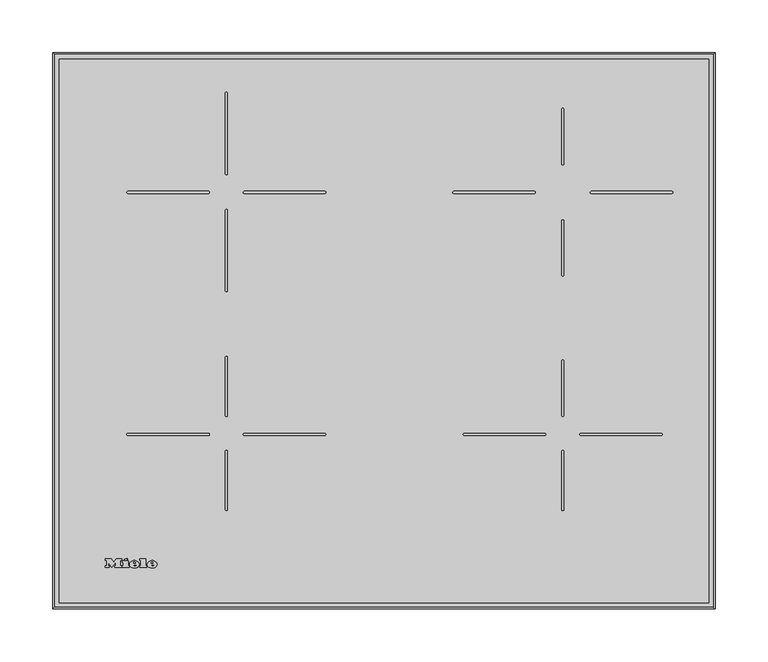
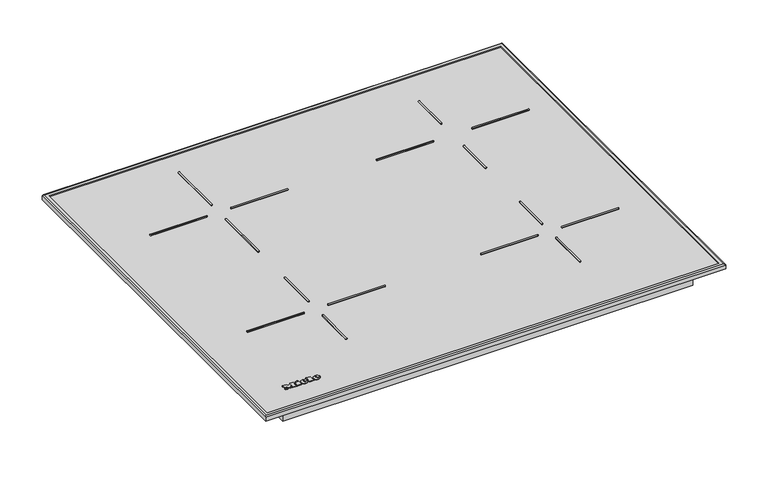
"""IFC4 building model written with IfcOpenShell, lengths in millimetres: proxy geometry, 12434410_TR_KM7361FR : 26736110_TR_12434410_KM7361FR."""

from ifc_helpers import new_model, si_unit, point, frame, frame_2d, origin, origin_with_axes, place, context, project, spatial, polyline, circle_curve, ellipse_curve, trimmed, segment, composite_curve, outline, extrude, source, transform, mapped, element, save
from ifc_brep_helpers import plane_surface, cylinder_surface, revolved_surface, extruded_surface, advanced_brep


def specialty_equipment_ff3cd103(model_context):
    return source(origin(), model_context, "Body", "SolidModel", [
        advanced_brep(
        [(-219.911984, 41.066, 5.0000007), (-219.911984, 41.874, 5.0000007), (-214.559984, 41.874, 5.0000007), (-223.871984, 41.874, 5.0000007), (-221.671984, 39.17, 5.0000007), (-214.695984, 41.066, 5.0000007), (-217.111984, 41.066, 5.0000007), (-219.015984, 40.17, 5.0000007), (-219.911984, 42.898, 5.0000007), (-219.911984, 43.77, 5.0000007), (-218.543984, 43.77, 5.0000007), (-218.543984, 42.898, 5.0000007), (-219.911984, 41.066, 4.0000007), (-219.015984, 40.17, 4.0000007), (-217.111984, 41.066, 4.0000007), (-214.695984, 41.066, 4.0000007), (-221.671984, 39.17, 4.0000007), (-223.871984, 41.874, 4.0000007), (-214.559984, 41.874, 4.0000007), (-219.911984, 41.874, 4.0000007), (-219.911984, 42.898, 4.0000007), (-218.543984, 42.898, 4.0000007), (-218.543984, 43.77, 4.0000007), (-219.911984, 43.77, 4.0000007)],
        [
            (0, 1),
            (1, 2),
            (2, 3, ellipse_curve(frame((-219.215984, 41.874, 5.0000007), z_axis=(0.0, 0.0, 1.0), x_axis=(-1.0, 0.0, 0.0)), 4.656, 3.848)),
            (3, 4, circle_curve(frame((-220.7759404, 42.146, 5.0000007), z_axis=(0.0, 0.0, 1.0), x_axis=(0.0, -1.0, 0.0)), 3.1079688)),
            (4, 5, circle_curve(frame((-219.3091904, 44.258, 5.0000007), z_axis=(0.0, 0.0, 1.0), x_axis=(0.0, -1.0, 0.0)), 5.6098607)),
            (5, 6),
            (6, 7, circle_curve(frame((-218.6249252, 41.81, 5.0000007), z_axis=(0.0, 0.0, -1.0), x_axis=(0.0, -1.0, 0.0)), 1.6859795)),
            (7, 0, circle_curve(frame((-219.015984, 41.066, 5.0000007), z_axis=(0.0, 0.0, -1.0), x_axis=(0.0, -1.0, 0.0)), 0.896)),
            (8, 9),
            (9, 10, circle_curve(frame((-219.227984, 43.77, 5.0000007), z_axis=(0.0, 0.0, -1.0), x_axis=(0.0, -1.0, 0.0)), 0.684)),
            (10, 11),
            (11, 8),
            (12, 13, circle_curve(frame((-219.015984, 41.066, 4.0000007), z_axis=(0.0, 0.0, 1.0), x_axis=(0.0, -1.0, 0.0)), 0.896)),
            (13, 14, circle_curve(frame((-218.6249252, 41.81, 4.0000007), z_axis=(0.0, 0.0, 1.0), x_axis=(0.0, -1.0, 0.0)), 1.6859795)),
            (14, 15),
            (15, 16, circle_curve(frame((-219.3091904, 44.258, 4.0000007), z_axis=(0.0, 0.0, -1.0), x_axis=(0.0, -1.0, 0.0)), 5.6098607)),
            (16, 17, circle_curve(frame((-220.7759404, 42.146, 4.0000007), z_axis=(0.0, 0.0, -1.0), x_axis=(0.0, -1.0, 0.0)), 3.1079688)),
            (17, 18, ellipse_curve(frame((-219.215984, 41.874, 4.0000007), z_axis=(0.0, 0.0, -1.0), x_axis=(-1.0, 0.0, 0.0)), 4.656, 3.848)),
            (18, 19),
            (19, 12),
            (20, 21),
            (21, 22),
            (22, 23, circle_curve(frame((-219.227984, 43.77, 4.0000007), z_axis=(0.0, 0.0, 1.0), x_axis=(0.0, -1.0, 0.0)), 0.684)),
            (23, 20),
            (0, 12),
            (19, 1),
            (18, 2),
            (5, 15),
            (14, 6),
            (17, 3),
            (13, 7),
            (16, 4),
            (8, 20),
            (23, 9),
            (22, 10),
            (21, 11),
        ],
        [
            plane_surface(frame((-219.911984, 41.874, 5.0000007), z_axis=(0.0, 0.0, 1.0), x_axis=(0.0, 1.0, 0.0))),
            plane_surface(frame((-219.911984, 41.874, 4.0000007), z_axis=(0.0, 0.0, -1.0), x_axis=(0.0, -1.0, 0.0))),
            plane_surface(frame((-219.911984, 41.066, 5.0000007), z_axis=(1.0, 0.0, 0.0), x_axis=(0.0, 0.0, -1.0))),
            plane_surface(frame((-219.911984, 41.874, 5.0000007), z_axis=(0.0, -1.0, 0.0), x_axis=(0.0, 0.0, -1.0))),
            plane_surface(frame((-214.695984, 41.066, 5.0000007), z_axis=(0.0, 1.0, 0.0), x_axis=(0.0, 0.0, -1.0))),
            extruded_surface(trimmed(ellipse_curve(frame((-219.215984, 41.874, 3.0000007), z_axis=(0.0, 0.0, 1.0), x_axis=(-1.0, 0.0, 0.0)), 4.656, 3.848), [point((-214.559984, 41.874, 3.0000007))], [point((-223.871984, 41.874, 3.0000007))], True, "CARTESIAN"), (0.0, 0.0, 1.0), 1.0),
            revolved_surface(polyline([(-218.6249252, 40.1240205, 4.0000007), (-218.6249252, 40.1240205, 5.0000007)]), (-218.6249252, 41.81, 4.0000007), (0.0, 0.0, -1.0)),
            revolved_surface(polyline([(-219.015984, 40.17, 4.0000007), (-219.015984, 40.17, 5.0000007)]), (-219.015984, 41.066, 4.0000007), (0.0, 0.0, -1.0)),
            cylinder_surface(frame((-220.7759404, 42.146, 4.0000007), z_axis=(0.0, 0.0, 1.0), x_axis=(0.0, -1.0, 0.0)), 3.1079688),
            cylinder_surface(frame((-219.3091904, 44.258, 4.0000007), z_axis=(0.0, 0.0, 1.0), x_axis=(0.0, -1.0, 0.0)), 5.6098607),
            plane_surface(frame((-219.911984, 42.898, 5.0000007), z_axis=(1.0, 0.0, 0.0), x_axis=(0.0, 0.0, -1.0))),
            revolved_surface(polyline([(-219.227984, 43.086000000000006, 4.0000007), (-219.227984, 43.086000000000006, 5.0000007)]), (-219.227984, 43.77, 4.0000007), (0.0, 0.0, -1.0)),
            plane_surface(frame((-218.543984, 43.77, 5.0000007), z_axis=(-1.0, 0.0, 0.0), x_axis=(0.0, 0.0, -1.0))),
            plane_surface(frame((-218.543984, 42.898, 5.0000007), z_axis=(0.0, 1.0, 0.0), x_axis=(0.0, 0.0, -1.0))),
        ],
        [
            (0, [[1, 2, 3, 4, 5, 6, 7, 8], [9, 10, 11, 12]]),
            (1, [[13, 14, 15, 16, 17, 18, 19, 20], [21, 22, 23, 24]]),
            (2, [[-1, 25, -20, 26]]),
            (3, [[-2, -26, -19, 27]]),
            (4, [[-6, 28, -15, 29]]),
            (5, [[-3, -27, -18, 30]]),
            (6, [[-7, -29, -14, 31]]),
            (7, [[-8, -31, -13, -25]]),
            (8, [[-4, -30, -17, 32]]),
            (9, [[-5, -32, -16, -28]]),
            (10, [[-9, 33, -24, 34]]),
            (11, [[-10, -34, -23, 35]]),
            (12, [[-11, -35, -22, 36]]),
            (13, [[-12, -36, -21, -33]]),
        ],
    ),
        advanced_brep(
        [(-236.607984, 41.066, 5.0000007), (-236.607984, 41.874, 5.0000007), (-231.255984, 41.874, 5.0000007), (-240.567984, 41.874, 5.0000007), (-238.367984, 39.17, 5.0000007), (-231.391984, 41.066, 5.0000007), (-233.807984, 41.066, 5.0000007), (-235.711984, 40.17, 5.0000007), (-236.607984, 42.898, 5.0000007), (-236.607984, 43.77, 5.0000007), (-235.239984, 43.77, 5.0000007), (-235.239984, 42.898, 5.0000007), (-236.607984, 41.066, 4.0000007), (-235.711984, 40.17, 4.0000007), (-233.807984, 41.066, 4.0000007), (-231.391984, 41.066, 4.0000007), (-238.367984, 39.17, 4.0000007), (-240.567984, 41.874, 4.0000007), (-231.255984, 41.874, 4.0000007), (-236.607984, 41.874, 4.0000007), (-236.607984, 42.898, 4.0000007), (-235.239984, 42.898, 4.0000007), (-235.239984, 43.77, 4.0000007), (-236.607984, 43.77, 4.0000007)],
        [
            (0, 1),
            (1, 2),
            (2, 3, ellipse_curve(frame((-235.911984, 41.874, 5.0000007), z_axis=(0.0, 0.0, 1.0), x_axis=(-1.0, 0.0, 0.0)), 4.656, 3.848)),
            (3, 4, circle_curve(frame((-237.4719404, 42.146, 5.0000007), z_axis=(0.0, 0.0, 1.0), x_axis=(0.0, -1.0, 0.0)), 3.1079688)),
            (4, 5, circle_curve(frame((-236.0051904, 44.258, 5.0000007), z_axis=(0.0, 0.0, 1.0), x_axis=(0.0, -1.0, 0.0)), 5.6098607)),
            (5, 6),
            (6, 7, circle_curve(frame((-235.3209252, 41.81, 5.0000007), z_axis=(0.0, 0.0, -1.0), x_axis=(0.0, -1.0, 0.0)), 1.6859795)),
            (7, 0, circle_curve(frame((-235.711984, 41.066, 5.0000007), z_axis=(0.0, 0.0, -1.0), x_axis=(0.0, -1.0, 0.0)), 0.896)),
            (8, 9),
            (9, 10, circle_curve(frame((-235.923984, 43.77, 5.0000007), z_axis=(0.0, 0.0, -1.0), x_axis=(0.0, -1.0, 0.0)), 0.684)),
            (10, 11),
            (11, 8),
            (12, 13, circle_curve(frame((-235.711984, 41.066, 4.0000007), z_axis=(0.0, 0.0, 1.0), x_axis=(0.0, -1.0, 0.0)), 0.896)),
            (13, 14, circle_curve(frame((-235.3209252, 41.81, 4.0000007), z_axis=(0.0, 0.0, 1.0), x_axis=(0.0, -1.0, 0.0)), 1.6859795)),
            (14, 15),
            (15, 16, circle_curve(frame((-236.0051904, 44.258, 4.0000007), z_axis=(0.0, 0.0, -1.0), x_axis=(0.0, -1.0, 0.0)), 5.6098607)),
            (16, 17, circle_curve(frame((-237.4719404, 42.146, 4.0000007), z_axis=(0.0, 0.0, -1.0), x_axis=(0.0, -1.0, 0.0)), 3.1079688)),
            (17, 18, ellipse_curve(frame((-235.911984, 41.874, 4.0000007), z_axis=(0.0, 0.0, -1.0), x_axis=(-1.0, 0.0, 0.0)), 4.656, 3.848)),
            (18, 19),
            (19, 12),
            (20, 21),
            (21, 22),
            (22, 23, circle_curve(frame((-235.923984, 43.77, 4.0000007), z_axis=(0.0, 0.0, 1.0), x_axis=(0.0, -1.0, 0.0)), 0.684)),
            (23, 20),
            (0, 12),
            (19, 1),
            (18, 2),
            (5, 15),
            (14, 6),
            (17, 3),
            (13, 7),
            (16, 4),
            (8, 20),
            (23, 9),
            (22, 10),
            (21, 11),
        ],
        [
            plane_surface(frame((-236.607984, 41.874, 5.0000007), z_axis=(0.0, 0.0, 1.0), x_axis=(0.0, 1.0, 0.0))),
            plane_surface(frame((-236.607984, 41.874, 4.0000007), z_axis=(0.0, 0.0, -1.0), x_axis=(0.0, -1.0, 0.0))),
            plane_surface(frame((-236.607984, 41.066, 5.0000007), z_axis=(1.0, 0.0, 0.0), x_axis=(0.0, 0.0, -1.0))),
            plane_surface(frame((-236.607984, 41.874, 5.0000007), z_axis=(0.0, -1.0, 0.0), x_axis=(0.0, 0.0, -1.0))),
            plane_surface(frame((-231.391984, 41.066, 5.0000007), z_axis=(0.0, 1.0, 0.0), x_axis=(0.0, 0.0, -1.0))),
            extruded_surface(trimmed(ellipse_curve(frame((-235.911984, 41.874, 3.0000007), z_axis=(0.0, 0.0, 1.0), x_axis=(-1.0, 0.0, 0.0)), 4.656, 3.848), [point((-231.255984, 41.874, 3.0000007))], [point((-240.567984, 41.874, 3.0000007))], True, "CARTESIAN"), (0.0, 0.0, 1.0), 1.0),
            revolved_surface(polyline([(-235.3209252, 40.1240205, 4.0000007), (-235.3209252, 40.1240205, 5.0000007)]), (-235.3209252, 41.81, 4.0000007), (0.0, 0.0, -1.0)),
            revolved_surface(polyline([(-235.711984, 40.17, 4.0000007), (-235.711984, 40.17, 5.0000007)]), (-235.711984, 41.066, 4.0000007), (0.0, 0.0, -1.0)),
            cylinder_surface(frame((-237.4719404, 42.146, 4.0000007), z_axis=(0.0, 0.0, 1.0), x_axis=(0.0, -1.0, 0.0)), 3.1079688),
            cylinder_surface(frame((-236.0051904, 44.258, 4.0000007), z_axis=(0.0, 0.0, 1.0), x_axis=(0.0, -1.0, 0.0)), 5.6098607),
            plane_surface(frame((-236.607984, 42.898, 5.0000007), z_axis=(1.0, 0.0, 0.0), x_axis=(0.0, 0.0, -1.0))),
            revolved_surface(polyline([(-235.923984, 43.086000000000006, 4.0000007), (-235.923984, 43.086000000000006, 5.0000007)]), (-235.923984, 43.77, 4.0000007), (0.0, 0.0, -1.0)),
            plane_surface(frame((-235.239984, 43.77, 5.0000007), z_axis=(-1.0, 0.0, 0.0), x_axis=(0.0, 0.0, -1.0))),
            plane_surface(frame((-235.239984, 42.898, 5.0000007), z_axis=(0.0, 1.0, 0.0), x_axis=(0.0, 0.0, -1.0))),
        ],
        [
            (0, [[1, 2, 3, 4, 5, 6, 7, 8], [9, 10, 11, 12]]),
            (1, [[13, 14, 15, 16, 17, 18, 19, 20], [21, 22, 23, 24]]),
            (2, [[-1, 25, -20, 26]]),
            (3, [[-2, -26, -19, 27]]),
            (4, [[-6, 28, -15, 29]]),
            (5, [[-3, -27, -18, 30]]),
            (6, [[-7, -29, -14, 31]]),
            (7, [[-8, -31, -13, -25]]),
            (8, [[-4, -30, -17, 32]]),
            (9, [[-5, -32, -16, -28]]),
            (10, [[-9, 33, -24, 34]]),
            (11, [[-10, -34, -23, 35]]),
            (12, [[-11, -35, -22, 36]]),
            (13, [[-12, -36, -21, -33]]),
        ],
    ),
        extrude(outline(polyline([(-245.351984, 46.698), (-242.631984, 47.962), (-242.031984, 46.666), (-244.743984, 45.402), (-245.351984, 46.698)])), frame((0.0, 0.0, 4.0000007), z_axis=(0.0, 0.0, 1.0), x_axis=(1.0, 0.0, 0.0)), (0.0, 0.0, 1.0), 1.0),
        extrude(outline(polyline([(-247.327984, 45.226), (-241.943984, 45.226), (-241.943984, 40.514), (-241.015984, 40.514), (-241.015984, 39.17), (-247.327984, 39.17), (-247.327984, 40.514), (-246.375984, 40.514), (-246.375984, 43.794), (-247.327984, 43.794), (-247.327984, 45.226)])), frame((0.0, 0.0, 4.0000007), z_axis=(0.0, 0.0, 1.0), x_axis=(1.0, 0.0, 0.0)), (0.0, 0.0, 1.0), 1.0),
        extrude(outline(polyline([(-230.807984, 45.866), (-230.807984, 47.17), (-225.303984, 47.17), (-225.303984, 40.514), (-224.319984, 40.514), (-224.319984, 39.17), (-230.807984, 39.17), (-230.807984, 40.514), (-229.847984, 40.514), (-229.847984, 45.866), (-230.807984, 45.866)])), frame((0.0, 0.0, 4.0000007), z_axis=(0.0, 0.0, 1.0), x_axis=(1.0, 0.0, 0.0)), (0.0, 0.0, 1.0), 1.0),
        extrude(outline(polyline([(-263.271984, 45.866), (-263.271984, 47.17), (-257.695984, 47.17), (-255.351984, 44.17), (-253.015984, 47.17), (-248.143984, 47.17), (-248.143984, 45.866), (-249.159984, 45.866), (-249.159984, 40.514), (-248.143984, 40.514), (-248.143984, 39.17), (-254.527984, 39.17), (-254.527984, 40.514), (-253.543984, 40.514), (-253.543984, 43.9852223), (-257.135984, 39.17), (-260.711984, 43.9171247), (-260.711984, 40.514), (-259.751984, 40.514), (-259.751984, 39.17), (-263.271984, 39.17), (-263.271984, 40.514), (-262.303984, 40.514), (-262.303984, 45.866), (-263.271984, 45.866)])), frame((0.0, 0.0, 4.0000007), z_axis=(0.0, 0.0, 1.0), x_axis=(1.0, 0.0, 0.0)), (0.0, 0.0, 1.0), 1.0),
        extrude(outline(composite_curve([segment(trimmed(circle_curve(frame_2d((-56.0, 394.0)), 1.0), [point((-56.0, 395.0))], [point((-56.0, 393.0))], False, "CARTESIAN"), True, "CONTINUOUS"), segment(polyline([(-56.0, 393.0), (-132.0, 393.0)]), True, "CONTINUOUS"), segment(trimmed(circle_curve(frame_2d((-132.0, 394.0)), 1.0), [point((-132.0, 393.0))], [point((-132.0, 395.0))], False, "CARTESIAN"), True, "CONTINUOUS"), segment(polyline([(-132.0, 395.0), (-56.0, 395.0)]), True, "CONTINUOUS")], self_intersect=False)), frame((0.0, 0.0, 4.0000007), z_axis=(0.0, 0.0, 1.0), x_axis=(1.0, 0.0, 0.0)), (0.0, 0.0, 1.0), 1.0),
        extrude(outline(composite_curve([segment(polyline([(-242.0, 395.0), (-166.0, 395.0)]), True, "CONTINUOUS"), segment(trimmed(circle_curve(frame_2d((-166.0, 394.0)), 1.0), [point((-166.0, 395.0))], [point((-166.0, 393.0))], False, "CARTESIAN"), True, "CONTINUOUS"), segment(polyline([(-166.0, 393.0), (-242.0, 393.0)]), True, "CONTINUOUS"), segment(trimmed(circle_curve(frame_2d((-242.0, 394.0)), 1.0), [point((-242.0, 393.0))], [point((-242.0, 395.0))], False, "CARTESIAN"), True, "CONTINUOUS")], self_intersect=False)), frame((0.0, 0.0, 4.0000007), z_axis=(0.0, 0.0, 1.0), x_axis=(1.0, 0.0, 0.0)), (0.0, 0.0, 1.0), 1.0),
        extrude(outline(composite_curve([segment(trimmed(circle_curve(frame_2d((-149.0, 487.75)), 1.0), [point((-150.0, 487.75))], [point((-148.0, 487.75))], False, "CARTESIAN"), True, "CONTINUOUS"), segment(polyline([(-148.0, 487.75), (-148.0, 411.75)]), True, "CONTINUOUS"), segment(trimmed(circle_curve(frame_2d((-149.0, 411.75)), 1.0), [point((-148.0, 411.75))], [point((-150.0, 411.75))], False, "CARTESIAN"), True, "CONTINUOUS"), segment(polyline([(-150.0, 411.75), (-150.0, 487.75)]), True, "CONTINUOUS")], self_intersect=False)), frame((0.0, 0.0, 4.0000007), z_axis=(0.0, 0.0, 1.0), x_axis=(1.0, 0.0, 0.0)), (0.0, 0.0, 1.0), 1.0),
        extrude(outline(composite_curve([segment(polyline([(-150.0, 301.0), (-150.0, 377.0)]), True, "CONTINUOUS"), segment(trimmed(circle_curve(frame_2d((-149.0, 377.0)), 1.0), [point((-150.0, 377.0))], [point((-148.0, 377.0))], False, "CARTESIAN"), True, "CONTINUOUS"), segment(polyline([(-148.0, 377.0), (-148.0, 301.0)]), True, "CONTINUOUS"), segment(trimmed(circle_curve(frame_2d((-149.0, 301.0)), 1.0), [point((-148.0, 301.0))], [point((-150.0, 301.0))], False, "CARTESIAN"), True, "CONTINUOUS")], self_intersect=False)), frame((0.0, 0.0, 4.0000007), z_axis=(0.0, 0.0, 1.0), x_axis=(1.0, 0.0, 0.0)), (0.0, 0.0, 1.0), 1.0),
        extrude(outline(composite_curve([segment(polyline([(66.0, 395.0), (142.0, 395.0)]), True, "CONTINUOUS"), segment(trimmed(circle_curve(frame_2d((142.0, 394.0)), 1.0), [point((142.0, 395.0))], [point((142.0, 393.0))], False, "CARTESIAN"), True, "CONTINUOUS"), segment(polyline([(142.0, 393.0), (66.0, 393.0)]), True, "CONTINUOUS"), segment(trimmed(circle_curve(frame_2d((66.0, 394.0)), 1.0), [point((66.0, 393.0))], [point((66.0, 395.0))], False, "CARTESIAN"), True, "CONTINUOUS")], self_intersect=False)), frame((0.0, 0.0, 4.0000007), z_axis=(0.0, 0.0, 1.0), x_axis=(1.0, 0.0, 0.0)), (0.0, 0.0, 1.0), 1.0),
        extrude(outline(composite_curve([segment(trimmed(circle_curve(frame_2d((272.0, 394.0)), 1.0), [point((272.0, 395.0))], [point((272.0, 393.0))], False, "CARTESIAN"), True, "CONTINUOUS"), segment(polyline([(272.0, 393.0), (196.0, 393.0)]), True, "CONTINUOUS"), segment(trimmed(circle_curve(frame_2d((196.0, 394.0)), 1.0), [point((196.0, 393.0))], [point((196.0, 395.0))], False, "CARTESIAN"), True, "CONTINUOUS"), segment(polyline([(196.0, 395.0), (272.0, 395.0)]), True, "CONTINUOUS")], self_intersect=False)), frame((0.0, 0.0, 4.0000007), z_axis=(0.0, 0.0, 1.0), x_axis=(1.0, 0.0, 0.0)), (0.0, 0.0, 1.0), 1.0),
        extrude(outline(composite_curve([segment(polyline([(170.0, 472.75), (170.0, 421.0)]), True, "CONTINUOUS"), segment(trimmed(circle_curve(frame_2d((169.0, 421.0)), 1.0), [point((170.0, 421.0))], [point((168.0, 421.0))], False, "CARTESIAN"), True, "CONTINUOUS"), segment(polyline([(168.0, 421.0), (168.0, 472.75)]), True, "CONTINUOUS"), segment(trimmed(circle_curve(frame_2d((169.0, 472.75)), 1.0), [point((168.0, 472.75))], [point((170.0, 472.75))], False, "CARTESIAN"), True, "CONTINUOUS")], self_intersect=False)), frame((0.0, 0.0, 4.0000007), z_axis=(0.0, 0.0, 1.0), x_axis=(1.0, 0.0, 0.0)), (0.0, 0.0, 1.0), 1.0),
        extrude(outline(composite_curve([segment(trimmed(circle_curve(frame_2d((169.0, 316.0)), 1.0), [point((170.0, 316.0))], [point((168.0, 316.0))], False, "CARTESIAN"), True, "CONTINUOUS"), segment(polyline([(168.0, 316.0), (168.0, 367.0)]), True, "CONTINUOUS"), segment(trimmed(circle_curve(frame_2d((169.0, 367.0)), 1.0), [point((168.0, 367.0))], [point((170.0, 367.0))], False, "CARTESIAN"), True, "CONTINUOUS"), segment(polyline([(170.0, 367.0), (170.0, 316.0)]), True, "CONTINUOUS")], self_intersect=False)), frame((0.0, 0.0, 4.0000007), z_axis=(0.0, 0.0, 1.0), x_axis=(1.0, 0.0, 0.0)), (0.0, 0.0, 1.0), 1.0),
        extrude(outline(composite_curve([segment(polyline([(-56.0, 164.0), (-132.0, 164.0)]), True, "CONTINUOUS"), segment(trimmed(circle_curve(frame_2d((-132.0, 165.0)), 1.0), [point((-132.0, 164.0))], [point((-132.0, 166.0))], False, "CARTESIAN"), True, "CONTINUOUS"), segment(polyline([(-132.0, 166.0), (-56.0, 166.0)]), True, "CONTINUOUS"), segment(trimmed(circle_curve(frame_2d((-56.0, 165.0)), 1.0), [point((-56.0, 166.0))], [point((-56.0, 164.0))], False, "CARTESIAN"), True, "CONTINUOUS")], self_intersect=False)), frame((0.0, 0.0, 4.0000007), z_axis=(0.0, 0.0, 1.0), x_axis=(1.0, 0.0, 0.0)), (0.0, 0.0, 1.0), 1.0),
        extrude(outline(composite_curve([segment(trimmed(circle_curve(frame_2d((-242.0, 165.0)), 1.0), [point((-242.0, 164.0))], [point((-242.0, 166.0))], False, "CARTESIAN"), True, "CONTINUOUS"), segment(polyline([(-242.0, 166.0), (-166.0, 166.0)]), True, "CONTINUOUS"), segment(trimmed(circle_curve(frame_2d((-166.0, 165.0)), 1.0), [point((-166.0, 166.0))], [point((-166.0, 164.0))], False, "CARTESIAN"), True, "CONTINUOUS"), segment(polyline([(-166.0, 164.0), (-242.0, 164.0)]), True, "CONTINUOUS")], self_intersect=False)), frame((0.0, 0.0, 4.0000007), z_axis=(0.0, 0.0, 1.0), x_axis=(1.0, 0.0, 0.0)), (0.0, 0.0, 1.0), 1.0),
        extrude(outline(composite_curve([segment(polyline([(-150.0, 94.0), (-150.0, 149.0)]), True, "CONTINUOUS"), segment(trimmed(circle_curve(frame_2d((-149.0, 149.0)), 1.0), [point((-150.0, 149.0))], [point((-148.0, 149.0))], False, "CARTESIAN"), True, "CONTINUOUS"), segment(polyline([(-148.0, 149.0), (-148.0, 94.0)]), True, "CONTINUOUS"), segment(trimmed(circle_curve(frame_2d((-149.0, 94.0)), 1.0), [point((-148.0, 94.0))], [point((-150.0, 94.0))], False, "CARTESIAN"), True, "CONTINUOUS")], self_intersect=False)), frame((0.0, 0.0, 4.0000007), z_axis=(0.0, 0.0, 1.0), x_axis=(1.0, 0.0, 0.0)), (0.0, 0.0, 1.0), 1.0),
        extrude(outline(composite_curve([segment(trimmed(circle_curve(frame_2d((-149.0, 238.0)), 1.0), [point((-150.0, 238.0))], [point((-148.0, 238.0))], False, "CARTESIAN"), True, "CONTINUOUS"), segment(polyline([(-148.0, 238.0), (-148.0, 183.0)]), True, "CONTINUOUS"), segment(trimmed(circle_curve(frame_2d((-149.0, 183.0)), 1.0), [point((-148.0, 183.0))], [point((-150.0, 183.0))], False, "CARTESIAN"), True, "CONTINUOUS"), segment(polyline([(-150.0, 183.0), (-150.0, 238.0)]), True, "CONTINUOUS")], self_intersect=False)), frame((0.0, 0.0, 4.0000007), z_axis=(0.0, 0.0, 1.0), x_axis=(1.0, 0.0, 0.0)), (0.0, 0.0, 1.0), 1.0),
        extrude(outline(composite_curve([segment(trimmed(circle_curve(frame_2d((76.0, 165.0)), 1.0), [point((76.0, 164.0))], [point((76.0, 166.0))], False, "CARTESIAN"), True, "CONTINUOUS"), segment(polyline([(76.0, 166.0), (152.0, 166.0)]), True, "CONTINUOUS"), segment(trimmed(circle_curve(frame_2d((152.0, 165.0)), 1.0), [point((152.0, 166.0))], [point((152.0, 164.0))], False, "CARTESIAN"), True, "CONTINUOUS"), segment(polyline([(152.0, 164.0), (76.0, 164.0)]), True, "CONTINUOUS")], self_intersect=False)), frame((0.0, 0.0, 4.0000007), z_axis=(0.0, 0.0, 1.0), x_axis=(1.0, 0.0, 0.0)), (0.0, 0.0, 1.0), 1.0),
        extrude(outline(composite_curve([segment(polyline([(262.0, 164.0), (186.0, 164.0)]), True, "CONTINUOUS"), segment(trimmed(circle_curve(frame_2d((186.0, 165.0)), 1.0), [point((186.0, 164.0))], [point((186.0, 166.0))], False, "CARTESIAN"), True, "CONTINUOUS"), segment(polyline([(186.0, 166.0), (262.0, 166.0)]), True, "CONTINUOUS"), segment(trimmed(circle_curve(frame_2d((262.0, 165.0)), 1.0), [point((262.0, 166.0))], [point((262.0, 164.0))], False, "CARTESIAN"), True, "CONTINUOUS")], self_intersect=False)), frame((0.0, 0.0, 4.0000007), z_axis=(0.0, 0.0, 1.0), x_axis=(1.0, 0.0, 0.0)), (0.0, 0.0, 1.0), 1.0),
        extrude(outline(composite_curve([segment(trimmed(circle_curve(frame_2d((169.0, 94.0)), 1.0), [point((170.0, 94.0))], [point((168.0, 94.0))], False, "CARTESIAN"), True, "CONTINUOUS"), segment(polyline([(168.0, 94.0), (168.0, 149.0)]), True, "CONTINUOUS"), segment(trimmed(circle_curve(frame_2d((169.0, 149.0)), 1.0), [point((168.0, 149.0))], [point((170.0, 149.0))], False, "CARTESIAN"), True, "CONTINUOUS"), segment(polyline([(170.0, 149.0), (170.0, 94.0)]), True, "CONTINUOUS")], self_intersect=False)), frame((0.0, 0.0, 4.0000007), z_axis=(0.0, 0.0, 1.0), x_axis=(1.0, 0.0, 0.0)), (0.0, 0.0, 1.0), 1.0),
        extrude(outline(composite_curve([segment(polyline([(170.0, 234.3524804), (170.0, 183.0)]), True, "CONTINUOUS"), segment(trimmed(circle_curve(frame_2d((169.0, 183.0)), 1.0), [point((170.0, 183.0))], [point((168.0, 183.0))], False, "CARTESIAN"), True, "CONTINUOUS"), segment(polyline([(168.0, 183.0), (168.0, 234.3524804)]), True, "CONTINUOUS"), segment(trimmed(circle_curve(frame_2d((169.0, 234.3524804)), 1.0), [point((168.0, 234.3524804))], [point((170.0, 234.3524804))], False, "CARTESIAN"), True, "CONTINUOUS")], self_intersect=False)), frame((0.0, 0.0, 4.0000007), z_axis=(0.0, 0.0, 1.0), x_axis=(1.0, 0.0, 0.0)), (0.0, 0.0, 1.0), 1.0),
        advanced_brep(
        [(313.0, 526.0, 0.0), (313.0, 526.0, 5.5271728), (313.0, 0.0, 5.5271728), (313.0, 0.0, 0.0), (311.5271728, 524.5271728, 5.8817013), (311.5271728, 524.5271728, 0.0), (311.5271728, 1.4728272, 0.0), (311.5271728, 1.4728272, 5.8817013), (307.2139587, 520.2139587, 7.0), (307.2139587, 520.2139587, 5.8817013), (307.2139587, 5.7860413, 5.8817013), (307.2139587, 5.7860413, 7.0), (311.5271728, 524.5271728, 7.0), (311.5271728, 1.4728272, 7.0), (-313.0, 0.0, 5.5271728), (-313.0, 0.0, 0.0), (-311.5271728, 1.4728272, 0.0), (-311.5271728, 1.4728272, 5.8817013), (-307.2139587, 5.7860413, 5.8817013), (-307.2139587, 5.7860413, 7.0), (-311.5271728, 1.4728272, 7.0), (-313.0, 526.0, 5.5271728), (-313.0, 526.0, 0.0), (-311.5271728, 524.5271728, 0.0), (-311.5271728, 524.5271728, 5.8817013), (-307.2139587, 520.2139587, 5.8817013), (-307.2139587, 520.2139587, 7.0), (-311.5271728, 524.5271728, 7.0)],
        [
            (0, 1),
            (1, 2),
            (2, 3),
            (3, 0),
            (4, 5),
            (5, 6),
            (6, 7),
            (7, 4),
            (8, 9),
            (9, 10),
            (10, 11),
            (11, 8),
            (1, 12, ellipse_curve(frame((311.5271728, 524.5271728, 5.5271728), z_axis=(0.7071067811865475, -0.7071067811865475, 0.0), x_axis=(0.7071067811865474, 0.7071067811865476, 0.0)), 2.0828921, 1.4728272)),
            (12, 13),
            (13, 2, ellipse_curve(frame((311.5271728, 1.4728272, 5.5271728), z_axis=(0.7071067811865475, 0.7071067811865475, 0.0), x_axis=(-0.7071067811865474, 0.7071067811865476, 0.0)), 2.0828921, 1.4728272)),
            (2, 14),
            (14, 15),
            (15, 3),
            (6, 16),
            (16, 17),
            (17, 7),
            (10, 18),
            (18, 19),
            (19, 11),
            (13, 20),
            (20, 14, ellipse_curve(frame((-311.5271728, 1.4728272, 5.5271728), z_axis=(0.7071067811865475, -0.7071067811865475, 0.0), x_axis=(0.7071067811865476, 0.7071067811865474, 0.0)), 2.0828921, 1.4728272)),
            (14, 21),
            (21, 22),
            (22, 15),
            (16, 23),
            (23, 24),
            (24, 17),
            (18, 25),
            (25, 26),
            (26, 19),
            (20, 27),
            (27, 21, ellipse_curve(frame((-311.5271728, 524.5271728, 5.5271728), z_axis=(-0.7071067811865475, -0.7071067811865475, 0.0), x_axis=(0.7071067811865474, -0.7071067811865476, 0.0)), 2.0828921, 1.4728272)),
            (21, 1),
            (0, 22),
            (5, 23),
            (4, 24),
            (9, 25),
            (8, 26),
            (12, 27),
        ],
        [
            plane_surface(frame((313.0, 526.0, 5.5271728), z_axis=(1.0, 0.0, 0.0), x_axis=(0.0, -1.0, 0.0))),
            plane_surface(frame((311.5271728, 524.5271728, 0.0), z_axis=(-1.0, 0.0, 0.0), x_axis=(0.0, -1.0, 0.0))),
            plane_surface(frame((307.2139587, 520.2139587, 5.8817013), z_axis=(-1.0, 0.0, 0.0), x_axis=(0.0, -1.0, 0.0))),
            cylinder_surface(frame((311.5271728, 526.0, 5.5271728), z_axis=(0.0, 1.0, 0.0), x_axis=(1.0, 0.0, 0.0)), 1.4728272),
            plane_surface(frame((313.0, 0.0, 5.5271728), z_axis=(0.0, -1.0, 0.0), x_axis=(-1.0, 0.0, 0.0))),
            plane_surface(frame((311.5271728, 1.4728272, 0.0), z_axis=(0.0, 1.0, 0.0), x_axis=(-1.0, 0.0, 0.0))),
            plane_surface(frame((307.2139587, 5.7860413, 5.8817013), z_axis=(0.0, 1.0, 0.0), x_axis=(-1.0, 0.0, 0.0))),
            cylinder_surface(frame((313.0, 1.4728272, 5.5271728), z_axis=(1.0, 0.0, 0.0), x_axis=(0.0, -1.0, 0.0)), 1.4728272),
            plane_surface(frame((-313.0, 0.0, 5.5271728), z_axis=(-1.0, 0.0, 0.0), x_axis=(0.0, 1.0, 0.0))),
            plane_surface(frame((-311.5271728, 1.4728272, 0.0), z_axis=(1.0, 0.0, 0.0), x_axis=(0.0, 1.0, 0.0))),
            plane_surface(frame((-307.2139587, 5.7860413, 5.8817013), z_axis=(1.0, 0.0, 0.0), x_axis=(0.0, 1.0, 0.0))),
            cylinder_surface(frame((-311.5271728, 0.0, 5.5271728), z_axis=(0.0, -1.0, 0.0), x_axis=(-1.0, 0.0, 0.0)), 1.4728272),
            plane_surface(frame((-313.0, 526.0, 5.5271728), z_axis=(0.0, 1.0, 0.0), x_axis=(1.0, 0.0, 0.0))),
            plane_surface(frame((-313.0, 526.0, 0.0), z_axis=(0.0, 0.0, -1.0), x_axis=(1.0, 0.0, 0.0))),
            plane_surface(frame((-311.5271728, 524.5271728, 0.0), z_axis=(0.0, -1.0, 0.0), x_axis=(1.0, 0.0, 0.0))),
            plane_surface(frame((-311.5271728, 524.5271728, 5.8817013), z_axis=(0.0, 0.0, -1.0), x_axis=(1.0, 0.0, 0.0))),
            plane_surface(frame((-307.2139587, 520.2139587, 5.8817013), z_axis=(0.0, -1.0, 0.0), x_axis=(1.0, 0.0, 0.0))),
            plane_surface(frame((-307.2139587, 520.2139587, 7.0), z_axis=(0.0, 0.0, 1.0), x_axis=(1.0, 0.0, 0.0))),
            cylinder_surface(frame((-313.0, 524.5271728, 5.5271728), z_axis=(-1.0, 0.0, 0.0), x_axis=(0.0, 1.0, 0.0)), 1.4728272),
        ],
        [
            (0, [[1, 2, 3, 4]]),
            (1, [[5, 6, 7, 8]]),
            (2, [[9, 10, 11, 12]]),
            (3, [[13, 14, 15, -2]]),
            (4, [[-3, 16, 17, 18]]),
            (5, [[-7, 19, 20, 21]]),
            (6, [[-11, 22, 23, 24]]),
            (7, [[-15, 25, 26, -16]]),
            (8, [[-17, 27, 28, 29]]),
            (9, [[-20, 30, 31, 32]]),
            (10, [[-23, 33, 34, 35]]),
            (11, [[-26, 36, 37, -27]]),
            (12, [[-28, 38, -1, 39]]),
            (13, [[-18, -29, -39, -4], [40, -30, -19, -6]]),
            (14, [[-31, -40, -5, 41]]),
            (15, [[-21, -32, -41, -8], [42, -33, -22, -10]]),
            (16, [[-34, -42, -9, 43]]),
            (17, [[44, -36, -25, -14], [-24, -35, -43, -12]]),
            (18, [[-37, -44, -13, -38]]),
        ],
    ),
        extrude(outline(polyline([(226.7938197, 483.0), (226.7938197, 365.7202614), (229.0, 365.7202614), (229.0, 79.0), (-64.0, 79.0), (-64.0, 483.0), (226.7938197, 483.0)])), frame((0.0, 0.0, -49.1723575), z_axis=(0.0, 0.0, 1.0), x_axis=(1.0, 0.0, 0.0)), (0.0, 0.0, 1.0), 26.1723575),
        extrude(outline(polyline([(279.0, 507.0), (279.0, 19.0), (-279.0, 19.0), (-279.0, 507.0), (279.0, 507.0)])), frame((0.0, 0.0, -23.0), z_axis=(0.0, 0.0, 1.0), x_axis=(1.0, 0.0, 0.0)), (0.0, 0.0, 1.0), 23.0),
        extrude(outline(polyline([(309.75, 523.0), (309.75, 3.0), (-309.75, 3.0), (-309.75, 523.0), (309.75, 523.0)])), origin_with_axes(), (0.0, 0.0, 1.0), 4.0000007),
        extrude(outline(polyline([(229.6227397, 386.1708126), (237.0, 386.1708126), (237.0, 384.9151088), (230.8784436, 384.9151088), (230.8784436, 381.6188861), (236.529111, 381.6188861), (236.529111, 380.3631822), (230.8784436, 380.3631822), (230.8784436, 377.3808855), (236.843037, 377.3808855), (236.843037, 376.1251816), (229.6227397, 376.1251816), (229.6227397, 386.1708126)])), frame((0.0, 0.0, -55.9814925), z_axis=(0.0, 0.0, 1.0), x_axis=(1.0, 0.0, 0.0)), (0.0, 0.0, 1.0), 1.0),
        extrude(outline(polyline([(238.8835558, 386.1708126), (245.1620752, 386.1708126), (245.1620752, 384.9151088), (240.1392597, 384.9151088), (240.1392597, 376.1251816), (238.8835558, 376.1251816), (238.8835558, 386.1708126)])), frame((0.0, 0.0, -55.9814925), z_axis=(0.0, 0.0, 1.0), x_axis=(1.0, 0.0, 0.0)), (0.0, 0.0, 1.0), 1.0),
        advanced_brep(
        [(214.0, 381.1708126, -42.9814925), (214.0, 381.1708126, -26.9814925), (228.7476293, 381.1708126, -42.9814925), (244.7476293, 381.1708126, -26.9814925), (228.7476293, 381.1708126, -54.9814925), (244.7476293, 381.1708126, -54.9814925)],
        [
            (0, 1, circle_curve(frame((214.0, 381.1708126, -34.9814925), z_axis=(-1.0, 0.0, 0.0), x_axis=(0.0, 0.0, 1.0)), 8.0)),
            (1, 0, circle_curve(frame((214.0, 381.1708126, -34.9814925), z_axis=(-1.0, 0.0, 0.0), x_axis=(0.0, 0.0, 1.0)), 8.0)),
            (0, 2),
            (2, 3, ellipse_curve(frame((236.7476293, 381.1708126, -34.9814925), z_axis=(-0.7071067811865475, 0.0, 0.7071067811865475), x_axis=(-0.7071067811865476, 0.0, -0.7071067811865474)), 11.3137085, 8.0)),
            (3, 1),
            (3, 2, ellipse_curve(frame((236.7476293, 381.1708126, -34.9814925), z_axis=(-0.7071067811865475, 0.0, 0.7071067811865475), x_axis=(-0.7071067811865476, 0.0, -0.7071067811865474)), 11.3137085, 8.0)),
            (4, 5, circle_curve(frame((236.7476293, 381.1708126, -54.9814925), z_axis=(0.0, 0.0, -1.0), x_axis=(1.0, 0.0, 0.0)), 8.0)),
            (5, 4, circle_curve(frame((236.7476293, 381.1708126, -54.9814925), z_axis=(0.0, 0.0, -1.0), x_axis=(1.0, 0.0, 0.0)), 8.0)),
            (2, 4),
            (5, 3),
        ],
        [
            plane_surface(frame((214.0, 0.0, -34.9814925), z_axis=(-1.0, 0.0, 0.0), x_axis=(0.0, -1.0, 0.0))),
            cylinder_surface(frame((214.0, 381.1708126, -34.9814925), z_axis=(-1.0, 0.0, 0.0), x_axis=(0.0, 0.0, 1.0)), 8.0),
            plane_surface(frame((236.7476293, 0.0, -54.9814925), z_axis=(0.0, 0.0, -1.0), x_axis=(0.0, -1.0, 0.0))),
            cylinder_surface(frame((236.7476293, 381.1708126, -34.9814925), z_axis=(0.0, 0.0, 1.0), x_axis=(1.0, 0.0, 0.0)), 8.0),
        ],
        [
            (0, [[1, 2]]),
            (1, [[-1, 3, 4, 5]]),
            (1, [[-2, -5, 6, -3]]),
            (2, [[7, 8]]),
            (3, [[-4, 9, -8, 10]]),
            (3, [[-6, -10, -7, -9]]),
        ],
    ),
    ])


if __name__ == "__main__":
    model = new_model("IFC4")
    model_context = context("Model", 3, world=origin())
    ifc_project = project(units=[si_unit("LENGTHUNIT", "METRE", prefix="MILLI")], contexts=[model_context])
    site = spatial("IfcSite", under=ifc_project)
    building = spatial("IfcBuilding", under=site)
    placement = place(None, origin())
    specialty_equipment_shape = specialty_equipment_ff3cd103(model_context)
    element("IfcBuildingElementProxy", 1, Name="12434410_TR_KM7361FR : 26736110_TR_12434410_KM7361FR", ObjectType="12434410_TR_KM7361FR : 26736110_TR_12434410_KM7361FR", at=placement, inside=building, context=model_context, shape_type="MappedRepresentation", body=[
        mapped(specialty_equipment_shape, transform((0.0, 0.0, 0.0), x_axis=(1.0, 0.0, 0.0), y_axis=(0.0, 1.0, 0.0), z_axis=(0.0, 0.0, 1.0))),
    ])
    save(model, "model.ifc")
